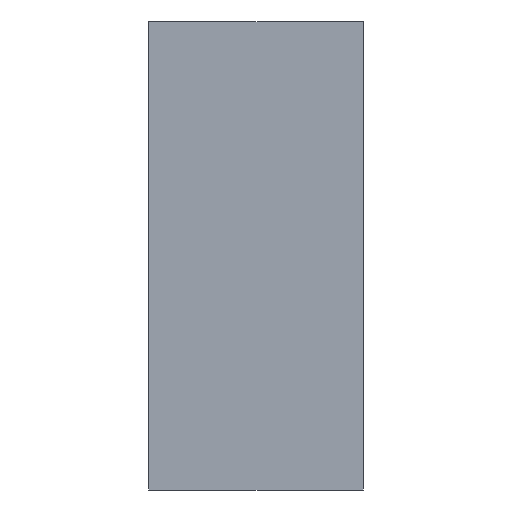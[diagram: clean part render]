
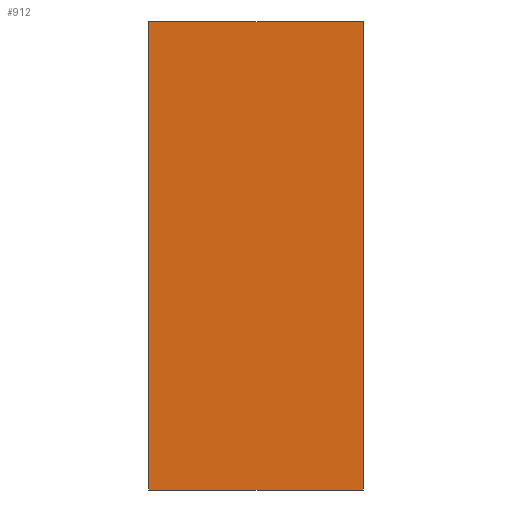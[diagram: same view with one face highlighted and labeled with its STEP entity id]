
A CAD part, left-side view. The second image highlights one B-rep face of the part: STEP entity #912.
In plain terms, the highlighted planar face has unit normal (-1, 0, 0).
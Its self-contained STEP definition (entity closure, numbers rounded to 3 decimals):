
#162 = EDGE_CURVE ( 'NONE', #898, #2504, #1095, .T. ) ;
#216 = CARTESIAN_POINT ( 'NONE',  ( 0., 5.5, 6. ) ) ;
#221 = VERTEX_POINT ( 'NONE', #2419 ) ;
#324 = VECTOR ( 'NONE', #1405, 1000. ) ;
#382 = DIRECTION ( 'NONE',  ( 0., -1., 0. ) ) ;
#510 = CARTESIAN_POINT ( 'NONE',  ( 0., 5.5, -6. ) ) ;
#528 = LINE ( 'NONE', #1401, #324 ) ;
#582 = VECTOR ( 'NONE', #1331, 1000. ) ;
#648 = LINE ( 'NONE', #510, #582 ) ;
#883 = ORIENTED_EDGE ( 'NONE', *, *, #958, .F. ) ;
#895 = VECTOR ( 'NONE', #382, 1000. ) ;
#898 = VERTEX_POINT ( 'NONE', #1497 ) ;
#912 = ADVANCED_FACE ( 'NONE', ( #1407 ), #1464, .F. ) ;
#958 = EDGE_CURVE ( 'NONE', #1481, #898, #528, .T. ) ;
#1095 = LINE ( 'NONE', #216, #895 ) ;
#1118 = VECTOR ( 'NONE', #1826, 1000. ) ;
#1246 = LINE ( 'NONE', #1867, #1118 ) ;
#1294 = EDGE_CURVE ( 'NONE', #221, #2504, #1246, .T. ) ;
#1331 = DIRECTION ( 'NONE',  ( 0., -1., 0. ) ) ;
#1401 = CARTESIAN_POINT ( 'NONE',  ( 0., 5.5, -6. ) ) ;
#1405 = DIRECTION ( 'NONE',  ( 0., 0., 1. ) ) ;
#1407 = FACE_OUTER_BOUND ( 'NONE', #1741, .T. ) ;
#1448 = DIRECTION ( 'NONE',  ( 1., 0., 0. ) ) ;
#1449 = DIRECTION ( 'NONE',  ( 0., 0., -1. ) ) ;
#1462 = CARTESIAN_POINT ( 'NONE',  ( 0., 5.5, -6. ) ) ;
#1464 = PLANE ( 'NONE',  #1652 ) ;
#1481 = VERTEX_POINT ( 'NONE', #2623 ) ;
#1497 = CARTESIAN_POINT ( 'NONE',  ( 0., 5.5, 6. ) ) ;
#1652 = AXIS2_PLACEMENT_3D ( 'NONE', #1462, #1448, #1449 ) ;
#1731 = ORIENTED_EDGE ( 'NONE', *, *, #2625, .T. ) ;
#1741 = EDGE_LOOP ( 'NONE', ( #2341, #1869, #883, #1731 ) ) ;
#1826 = DIRECTION ( 'NONE',  ( 0., 0., 1. ) ) ;
#1867 = CARTESIAN_POINT ( 'NONE',  ( 0., 0., -6. ) ) ;
#1869 = ORIENTED_EDGE ( 'NONE', *, *, #162, .F. ) ;
#2123 = CARTESIAN_POINT ( 'NONE',  ( 0., 0., 6. ) ) ;
#2341 = ORIENTED_EDGE ( 'NONE', *, *, #1294, .T. ) ;
#2419 = CARTESIAN_POINT ( 'NONE',  ( 0., 0., -6. ) ) ;
#2504 = VERTEX_POINT ( 'NONE', #2123 ) ;
#2623 = CARTESIAN_POINT ( 'NONE',  ( 0., 5.5, -6. ) ) ;
#2625 = EDGE_CURVE ( 'NONE', #1481, #221, #648, .T. ) ;
